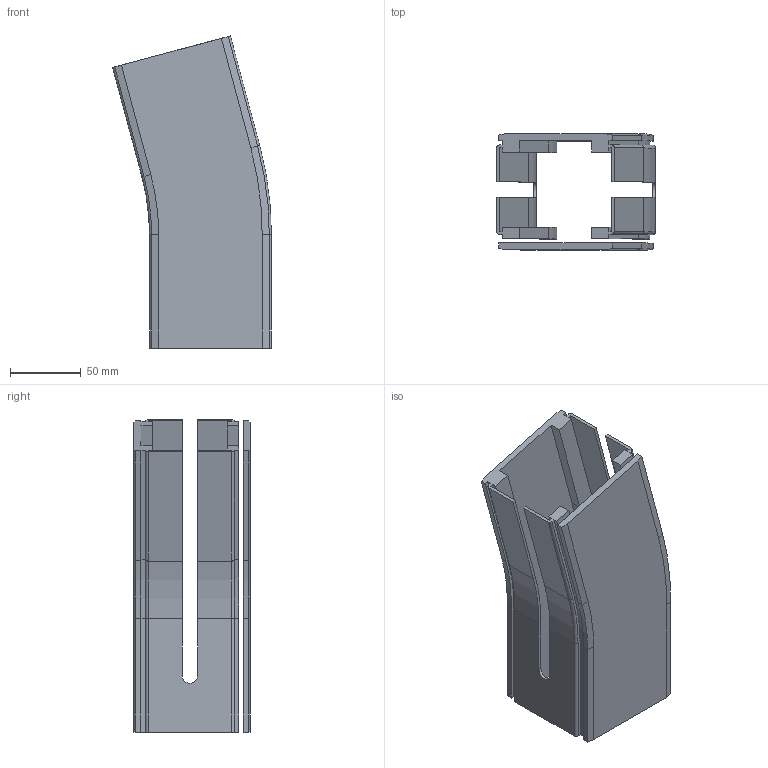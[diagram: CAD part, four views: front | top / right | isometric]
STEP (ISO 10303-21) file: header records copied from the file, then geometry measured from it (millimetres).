
FILE_DESCRIPTION((''),'2;1');
FILE_NAME('C:\Vault Klient\Projekt\Koncept konstruktion\Serie 530 Balk\530-5130.stp','2010-12-01T07:29:11',('Mathias'),(''),'Autodesk Inventor 2011','Autodesk Inventor 2011','');
FILE_SCHEMA(('AUTOMOTIVE_DESIGN { 1 0 10303 214 1 1 1 1 }'));
Length unit declared in the file: millimetre
Products named in the file (1): 530-5130
Bounding box: 112.06 x 82 x 220.17 mm (x, y, z)
Volume: 307485.5 mm3; surface area: 149286.6 mm2
Topology: 2 solids, 2 shells, 159 faces, 434 edges, 284 vertices
Faces by surface type: plane 103, cylinder 34, bspline 14, cone 4, torus 4
Entity records: 5158 total; most frequent: CARTESIAN_POINT 1072, ORIENTED_EDGE 868, DIRECTION 774, EDGE_CURVE 434, VECTOR 330, LINE 330, VERTEX_POINT 284, AXIS2_PLACEMENT_3D 222
